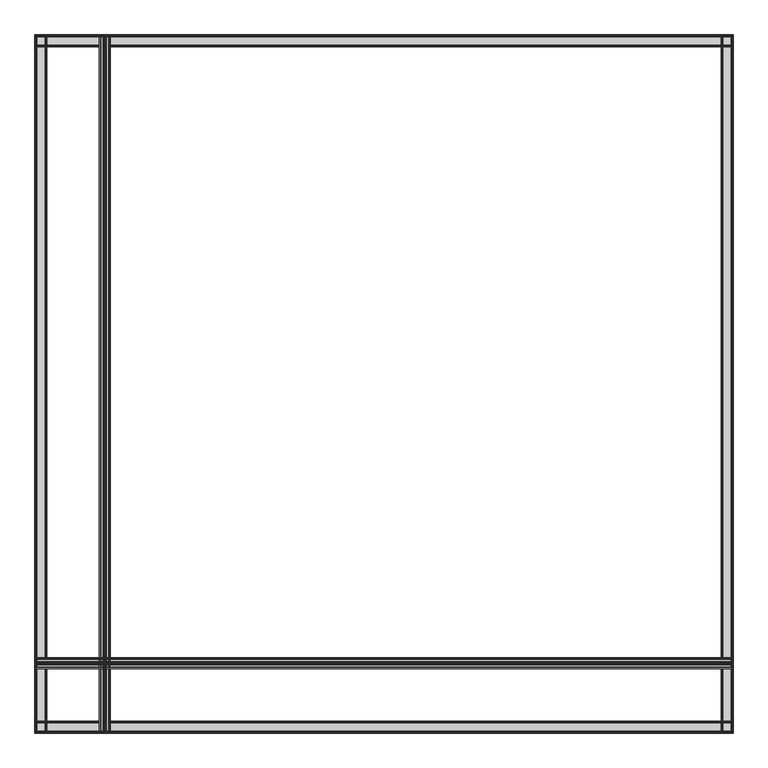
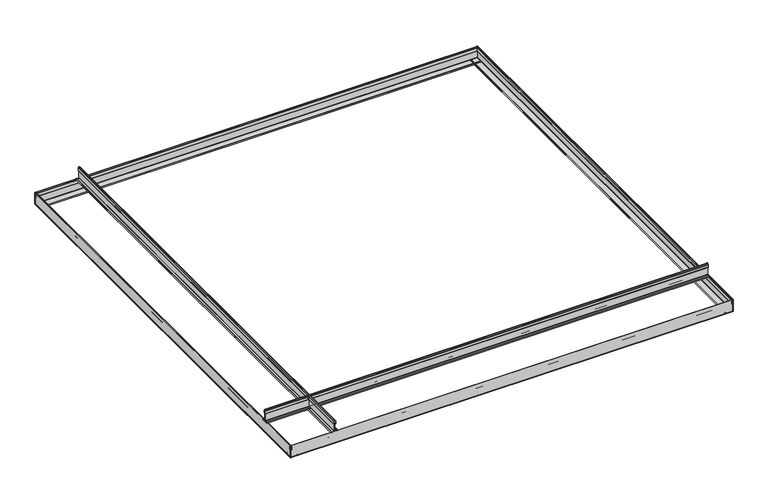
"""IFC4 building model written with IfcOpenShell, lengths in millimetres: proxy geometry, Maxxit_Concave-Ceiling_rev-01 : Maxxit_Concave-Ceiling_Solo."""

from ifc_helpers import new_model, si_unit, point, frame, frame_2d, origin, place, context, project, spatial, polyline, circle_curve, trimmed, segment, composite_curve, outline, extrude, source, transform, mapped, element, save


def generic_models_38ad2210(model_context):
    return source(origin(), model_context, "Body", "SweptSolid", [
        extrude(outline(composite_curve([segment(trimmed(circle_curve(frame_2d((152.7521622, 27.4883115)), 1.143), [point((152.7521622, 26.3453115))], [point((151.6091622, 27.4883115))], False, "CARTESIAN"), True, "CONTINUOUS"), segment(trimmed(circle_curve(frame_2d((150.4661622, 27.4883115)), 1.143), [point((151.6091622, 27.4883115))], [point((150.4661622, 26.3453115))], False, "CARTESIAN"), True, "CONTINUOUS"), segment(polyline([(150.4661622, 26.3453115), (141.2632271, 26.0290179), (141.2632271, 27.0486923), (149.8595431, 27.0486923)]), True, "CONTINUOUS"), segment(trimmed(circle_curve(frame_2d((149.8595431, 28.0053766)), 0.9566843), [point((149.8595431, 27.0486923))], [point((150.8162274, 28.0053766))], True, "CARTESIAN"), True, "CONTINUOUS"), segment(polyline([(150.8162274, 28.0053766), (150.8162274, 53.7436541)]), True, "CONTINUOUS"), segment(trimmed(circle_curve(frame_2d((150.0835556, 53.6130577)), 0.74422), [point((150.8162274, 53.7436541))], [point((150.1271464, 54.356))], True, "CARTESIAN"), True, "CONTINUOUS"), segment(trimmed(circle_curve(frame_2d((149.8680297, 58.371716)), 4.0240672), [point((150.1271464, 54.356))], [point((149.1805705, 54.4068054))], False, "CARTESIAN"), True, "CONTINUOUS"), segment(trimmed(circle_curve(frame_2d((149.538326, 55.7865501)), 1.4253717), [point((149.1805705, 54.4068054))], [point((148.1129543, 55.7865501))], False, "CARTESIAN"), True, "CONTINUOUS"), segment(polyline([(148.1129543, 55.7865501), (148.1129543, 64.7585942)]), True, "CONTINUOUS"), segment(trimmed(circle_curve(frame_2d((150.1630392, 64.8150812)), 2.0508629), [point((148.1129543, 64.7585942))], [point((148.7128601, 66.2652603))], False, "CARTESIAN"), True, "CONTINUOUS"), segment(polyline([(148.7128601, 66.2652603), (150.6184323, 68.1708325)]), True, "CONTINUOUS"), segment(trimmed(circle_curve(frame_2d((151.60625, 67.1830148)), 1.3969852), [point((150.6184323, 68.1708325))], [point((152.5940677, 68.1708325))], False, "CARTESIAN"), True, "CONTINUOUS"), segment(polyline([(152.5940677, 68.1708325), (154.4996399, 66.2652603)]), True, "CONTINUOUS"), segment(trimmed(circle_curve(frame_2d((153.0494608, 64.8150812)), 2.0508629), [point((154.4996399, 66.2652603))], [point((155.0995457, 64.7585942))], False, "CARTESIAN"), True, "CONTINUOUS"), segment(polyline([(155.0995457, 64.7585942), (155.0995457, 55.7865501)]), True, "CONTINUOUS"), segment(trimmed(circle_curve(frame_2d((153.674174, 55.7865501)), 1.4253717), [point((155.0995457, 55.7865501))], [point((154.0319295, 54.4068054))], False, "CARTESIAN"), True, "CONTINUOUS"), segment(trimmed(circle_curve(frame_2d((153.3444703, 58.371716)), 4.0240672), [point((154.0319295, 54.4068054))], [point((153.0853536, 54.356))], False, "CARTESIAN"), True, "CONTINUOUS"), segment(trimmed(circle_curve(frame_2d((153.1289444, 53.6130577)), 0.74422), [point((153.0853536, 54.356))], [point((152.402097, 53.7729211))], True, "CARTESIAN"), True, "CONTINUOUS"), segment(polyline([(152.402097, 53.7729211), (152.402097, 28.0053766)]), True, "CONTINUOUS"), segment(trimmed(circle_curve(frame_2d((153.3587813, 28.0053766)), 0.9566843), [point((152.402097, 28.0053766))], [point((153.3587813, 27.0486923))], True, "CARTESIAN"), True, "CONTINUOUS"), segment(polyline([(153.3587813, 27.0486923), (161.1221882, 27.0486923), (161.1221882, 26.0364605), (152.7521622, 26.3453115)]), True, "CONTINUOUS")], self_intersect=False), holes=[composite_curve([segment(trimmed(circle_curve(frame_2d((152.6758577, 54.058724)), 1.0922), [point((151.60625, 54.2797221))], [point((152.6758577, 55.150924))], False, "CARTESIAN"), True, "CONTINUOUS"), segment(polyline([(152.6758577, 55.150924), (153.6662785, 55.150924)]), True, "CONTINUOUS"), segment(trimmed(circle_curve(frame_2d((153.6662785, 55.7859245)), 0.6350005), [point((153.6662785, 55.150924))], [point((154.301279, 55.7859245))], True, "CARTESIAN"), True, "CONTINUOUS"), segment(polyline([(154.301279, 55.7859245), (154.301279, 64.7585942)]), True, "CONTINUOUS"), segment(trimmed(circle_curve(frame_2d((152.7984359, 64.7240599)), 1.5032399), [point((154.301279, 64.7585942))], [point((153.9383739, 65.7039943))], True, "CARTESIAN"), True, "CONTINUOUS"), segment(polyline([(153.9383739, 65.7039943), (152.0328017, 67.6095665)]), True, "CONTINUOUS"), segment(trimmed(circle_curve(frame_2d((151.60625, 67.1830148)), 0.6032352), [point((152.0328017, 67.6095665))], [point((151.1796983, 67.6095665))], True, "CARTESIAN"), True, "CONTINUOUS"), segment(polyline([(151.1796983, 67.6095665), (149.2741261, 65.7039943)]), True, "CONTINUOUS"), segment(trimmed(circle_curve(frame_2d((150.4140641, 64.7240599)), 1.5032399), [point((149.2741261, 65.7039943))], [point((148.911221, 64.7585942))], True, "CARTESIAN"), True, "CONTINUOUS"), segment(polyline([(148.911221, 64.7585942), (148.911221, 55.7859245)]), True, "CONTINUOUS"), segment(trimmed(circle_curve(frame_2d((149.5462215, 55.7859245)), 0.6350005), [point((148.911221, 55.7859245))], [point((149.5462215, 55.150924))], True, "CARTESIAN"), True, "CONTINUOUS"), segment(polyline([(149.5462215, 55.150924), (150.5366423, 55.150924)]), True, "CONTINUOUS"), segment(trimmed(circle_curve(frame_2d((150.5366423, 54.058724)), 1.0922), [point((150.5366423, 55.150924))], [point((151.60625, 54.2797221))], False, "CARTESIAN"), True, "CONTINUOUS")], self_intersect=False)]), frame((-0.79375, 0.0, 0.0), z_axis=(1.0, 0.0, 0.0), x_axis=(0.0, 1.0, 0.0)), (0.0, 0.0, 1.0), 1524.0),
        extrude(outline(composite_curve([segment(polyline([(162.0419885, 25.4), (141.1705115, 25.4)]), True, "CONTINUOUS"), segment(trimmed(circle_curve(frame_2d((141.1705115, 26.8823557)), 1.4823557), [point((141.1705115, 25.4))], [point((141.5415525, 28.3175237))], False, "CARTESIAN"), True, "CONTINUOUS"), segment(polyline([(141.5415525, 28.3175237), (143.0677295, 27.887022), (142.8522387, 27.123083), (141.3360297, 27.550773)]), True, "CONTINUOUS"), segment(trimmed(circle_curve(frame_2d((141.1705115, 26.8823557)), 0.6886057), [point((141.3360297, 27.550773))], [point((141.1705115, 26.19375))], True, "CARTESIAN"), True, "CONTINUOUS"), segment(polyline([(141.1705115, 26.19375), (162.0419885, 26.19375)]), True, "CONTINUOUS"), segment(trimmed(circle_curve(frame_2d((162.0419885, 26.8823557)), 0.6886057), [point((162.0419885, 26.19375))], [point((161.8764703, 27.550773))], True, "CARTESIAN"), True, "CONTINUOUS"), segment(polyline([(161.8764703, 27.550773), (160.3602613, 27.123083), (160.1447705, 27.887022), (161.6709475, 28.3175237)]), True, "CONTINUOUS"), segment(trimmed(circle_curve(frame_2d((162.0419885, 26.8823557)), 1.4823557), [point((161.6709475, 28.3175237))], [point((162.0419885, 25.4))], False, "CARTESIAN"), True, "CONTINUOUS")], self_intersect=False)), frame((-0.79375, 0.0, 0.0), z_axis=(1.0, 0.0, 0.0), x_axis=(0.0, 1.0, 0.0)), (0.0, 0.0, 1.0), 1524.0),
        extrude(outline(composite_curve([segment(polyline([(-14.9820313, 1523.1762526), (-14.1882813, 1523.1762526), (-14.1882813, 1498.4809145)]), True, "CONTINUOUS"), segment(trimmed(circle_curve(frame_2d((-13.4996755, 1498.4809145)), 0.6886057), [point((-14.1882813, 1498.4809145))], [point((-12.8312583, 1498.6464327))], True, "CARTESIAN"), True, "CONTINUOUS"), segment(polyline([(-12.8312583, 1498.6464327), (-13.2589482, 1500.1626417), (-12.4950092, 1500.3781325), (-12.0645075, 1498.8519555)]), True, "CONTINUOUS"), segment(trimmed(circle_curve(frame_2d((-13.4996755, 1498.4809145)), 1.4823557), [point((-12.0645075, 1498.8519555))], [point((-14.9820313, 1498.4809145))], False, "CARTESIAN"), True, "CONTINUOUS"), segment(polyline([(-14.9820313, 1498.4809145), (-14.9820313, 1523.1762526)]), True, "CONTINUOUS")], self_intersect=False)), frame((0.0, -0.79375, 0.0), z_axis=(0.0, 1.0, 0.0), x_axis=(0.0, 0.0, 1.0)), (0.0, 0.0, 1.0), 1524.0),
        extrude(outline(composite_curve([segment(trimmed(circle_curve(frame_2d((26.9918874, 1522.410403)), 1.3969852), [point((28.1400142, 1523.20625))], [point((27.9797051, 1521.4225853))], False, "CARTESIAN"), True, "CONTINUOUS"), segment(polyline([(27.9797051, 1521.4225853), (26.0741329, 1519.5170131)]), True, "CONTINUOUS"), segment(trimmed(circle_curve(frame_2d((24.6239538, 1520.9671922)), 2.0508629), [point((26.0741329, 1519.5170131))], [point((24.5674668, 1518.9171073))], False, "CARTESIAN"), True, "CONTINUOUS"), segment(polyline([(24.5674668, 1518.9171073), (14.4241684, 1518.9171073)]), True, "CONTINUOUS"), segment(trimmed(circle_curve(frame_2d((14.4241684, 1520.342479)), 1.4253717), [point((14.4241684, 1518.9171073))], [point((13.0444237, 1519.9847235))], False, "CARTESIAN"), True, "CONTINUOUS"), segment(trimmed(circle_curve(frame_2d((17.0093343, 1520.6721827)), 4.0240672), [point((13.0444237, 1519.9847235))], [point((12.9936183, 1520.9312994))], False, "CARTESIAN"), True, "CONTINUOUS"), segment(trimmed(circle_curve(frame_2d((12.250676, 1520.8877086)), 0.74422), [point((12.9936183, 1520.9312994))], [point((12.3812724, 1521.6203804))], True, "CARTESIAN"), True, "CONTINUOUS"), segment(polyline([(12.3812724, 1521.6203804), (-12.3766547, 1521.6203804)]), True, "CONTINUOUS"), segment(trimmed(circle_curve(frame_2d((-12.3766547, 1520.6636961)), 0.9566843), [point((-12.3766547, 1521.6203804))], [point((-13.333339, 1520.6636961))], True, "CARTESIAN"), True, "CONTINUOUS"), segment(polyline([(-13.333339, 1520.6636961), (-13.333339, 1498.5736301), (-14.3530133, 1498.5736301), (-14.0306827, 1521.9459287)]), True, "CONTINUOUS"), segment(trimmed(circle_curve(frame_2d((-12.8937197, 1522.06325)), 1.143), [point((-14.0306827, 1521.9459287))], [point((-12.8937197, 1523.20625))], False, "CARTESIAN"), True, "CONTINUOUS"), segment(polyline([(-12.8937197, 1523.20625), (28.1400142, 1523.20625)]), True, "CONTINUOUS")], self_intersect=False), holes=[composite_curve([segment(trimmed(circle_curve(frame_2d((14.4235428, 1521.7729828)), 0.6350005), [point((14.4235428, 1522.4079833))], [point((13.7885423, 1521.7729828))], True, "CARTESIAN"), True, "CONTINUOUS"), segment(polyline([(13.7885423, 1521.7729828), (13.7885423, 1520.3503744)]), True, "CONTINUOUS"), segment(trimmed(circle_curve(frame_2d((14.4235428, 1520.3503744)), 0.6350005), [point((13.7885423, 1520.3503744))], [point((14.4235428, 1519.715374))], True, "CARTESIAN"), True, "CONTINUOUS"), segment(polyline([(14.4235428, 1519.715374), (24.5674668, 1519.715374)]), True, "CONTINUOUS"), segment(trimmed(circle_curve(frame_2d((24.5329325, 1521.2182171)), 1.5032399), [point((24.5674668, 1519.715374))], [point((25.5128669, 1520.0782791))], True, "CARTESIAN"), True, "CONTINUOUS"), segment(polyline([(25.5128669, 1520.0782791), (27.8425711, 1522.4079833), (14.4235428, 1522.4079833)]), True, "CONTINUOUS")], self_intersect=False)]), frame((0.0, -0.79375, 0.0), z_axis=(0.0, 1.0, 0.0), x_axis=(0.0, 0.0, 1.0)), (0.0, 0.0, 1.0), 1524.0),
        extrude(outline(composite_curve([segment(polyline([(1523.1762526, -14.9820313), (1498.4809145, -14.9820313)]), True, "CONTINUOUS"), segment(trimmed(circle_curve(frame_2d((1498.4809145, -13.4996755)), 1.4823557), [point((1498.4809145, -14.9820313))], [point((1498.8519555, -12.0645075))], False, "CARTESIAN"), True, "CONTINUOUS"), segment(polyline([(1498.8519555, -12.0645075), (1500.3781325, -12.4950092), (1500.1626417, -13.2589482), (1498.6464327, -12.8312583)]), True, "CONTINUOUS"), segment(trimmed(circle_curve(frame_2d((1498.4809145, -13.4996755)), 0.6886057), [point((1498.6464327, -12.8312583))], [point((1498.4809145, -14.1882813))], True, "CARTESIAN"), True, "CONTINUOUS"), segment(polyline([(1498.4809145, -14.1882813), (1523.1762526, -14.1882813), (1523.1762526, -14.9820313)]), True, "CONTINUOUS")], self_intersect=False)), frame((-0.79375, 0.0, 0.0), z_axis=(1.0, 0.0, 0.0), x_axis=(0.0, 1.0, 0.0)), (0.0, 0.0, 1.0), 1524.0),
        extrude(outline(composite_curve([segment(polyline([(1523.20625, 28.1400142), (1523.20625, -12.8937197)]), True, "CONTINUOUS"), segment(trimmed(circle_curve(frame_2d((1522.06325, -12.8937197)), 1.143), [point((1523.20625, -12.8937197))], [point((1521.9459287, -14.0306827))], False, "CARTESIAN"), True, "CONTINUOUS"), segment(polyline([(1521.9459287, -14.0306827), (1498.5736301, -14.3530133), (1498.5736301, -13.333339), (1520.6636961, -13.333339)]), True, "CONTINUOUS"), segment(trimmed(circle_curve(frame_2d((1520.6636961, -12.3766547)), 0.9566843), [point((1520.6636961, -13.333339))], [point((1521.6203804, -12.3766547))], True, "CARTESIAN"), True, "CONTINUOUS"), segment(polyline([(1521.6203804, -12.3766547), (1521.6203804, 12.3812724)]), True, "CONTINUOUS"), segment(trimmed(circle_curve(frame_2d((1520.8877086, 12.250676)), 0.74422), [point((1521.6203804, 12.3812724))], [point((1520.9312994, 12.9936183))], True, "CARTESIAN"), True, "CONTINUOUS"), segment(trimmed(circle_curve(frame_2d((1520.6721827, 17.0093343)), 4.0240672), [point((1520.9312994, 12.9936183))], [point((1519.9847235, 13.0444237))], False, "CARTESIAN"), True, "CONTINUOUS"), segment(trimmed(circle_curve(frame_2d((1520.342479, 14.4241684)), 1.4253717), [point((1519.9847235, 13.0444237))], [point((1518.9171073, 14.4241684))], False, "CARTESIAN"), True, "CONTINUOUS"), segment(polyline([(1518.9171073, 14.4241684), (1518.9171073, 24.5674668)]), True, "CONTINUOUS"), segment(trimmed(circle_curve(frame_2d((1520.9671922, 24.6239538)), 2.0508629), [point((1518.9171073, 24.5674668))], [point((1519.5170131, 26.0741329))], False, "CARTESIAN"), True, "CONTINUOUS"), segment(polyline([(1519.5170131, 26.0741329), (1521.4225853, 27.9797051)]), True, "CONTINUOUS"), segment(trimmed(circle_curve(frame_2d((1522.410403, 26.9918874)), 1.3969852), [point((1521.4225853, 27.9797051))], [point((1523.20625, 28.1400142))], False, "CARTESIAN"), True, "CONTINUOUS")], self_intersect=False), holes=[composite_curve([segment(polyline([(1522.4079833, 14.4235428), (1522.4079833, 27.8425711), (1520.0782791, 25.5128669)]), True, "CONTINUOUS"), segment(trimmed(circle_curve(frame_2d((1521.2182171, 24.5329325)), 1.5032399), [point((1520.0782791, 25.5128669))], [point((1519.715374, 24.5674668))], True, "CARTESIAN"), True, "CONTINUOUS"), segment(polyline([(1519.715374, 24.5674668), (1519.715374, 14.4235428)]), True, "CONTINUOUS"), segment(trimmed(circle_curve(frame_2d((1520.3503744, 14.4235428)), 0.6350005), [point((1519.715374, 14.4235428))], [point((1520.3503744, 13.7885423))], True, "CARTESIAN"), True, "CONTINUOUS"), segment(polyline([(1520.3503744, 13.7885423), (1521.7729828, 13.7885423)]), True, "CONTINUOUS"), segment(trimmed(circle_curve(frame_2d((1521.7729828, 14.4235428)), 0.6350005), [point((1521.7729828, 13.7885423))], [point((1522.4079833, 14.4235428))], True, "CARTESIAN"), True, "CONTINUOUS")], self_intersect=False)]), frame((-0.79375, 0.0, 0.0), z_axis=(1.0, 0.0, 0.0), x_axis=(0.0, 1.0, 0.0)), (0.0, 0.0, 1.0), 1524.0),
        extrude(outline(composite_curve([segment(polyline([(-14.9820313, -0.7637526), (-14.9820313, 23.9315855)]), True, "CONTINUOUS"), segment(trimmed(circle_curve(frame_2d((-13.4996755, 23.9315855)), 1.4823557), [point((-14.9820313, 23.9315855))], [point((-12.0645075, 23.5605445))], False, "CARTESIAN"), True, "CONTINUOUS"), segment(polyline([(-12.0645075, 23.5605445), (-12.4950092, 22.0343675), (-13.2589482, 22.2498583), (-12.8312583, 23.7660673)]), True, "CONTINUOUS"), segment(trimmed(circle_curve(frame_2d((-13.4996755, 23.9315855)), 0.6886057), [point((-12.8312583, 23.7660673))], [point((-14.1882813, 23.9315855))], True, "CARTESIAN"), True, "CONTINUOUS"), segment(polyline([(-14.1882813, 23.9315855), (-14.1882813, -0.7637526), (-14.9820313, -0.7637526)]), True, "CONTINUOUS")], self_intersect=False)), frame((0.0, -0.79375, 0.0), z_axis=(0.0, 1.0, 0.0), x_axis=(0.0, 0.0, 1.0)), (0.0, 0.0, 1.0), 1524.0),
        extrude(outline(composite_curve([segment(polyline([(28.1400142, -0.79375), (-12.8937197, -0.79375)]), True, "CONTINUOUS"), segment(trimmed(circle_curve(frame_2d((-12.8937197, 0.34925)), 1.143), [point((-12.8937197, -0.79375))], [point((-14.0306827, 0.4665713))], False, "CARTESIAN"), True, "CONTINUOUS"), segment(polyline([(-14.0306827, 0.4665713), (-14.3530133, 23.8388699), (-13.333339, 23.8388699), (-13.333339, 1.7488039)]), True, "CONTINUOUS"), segment(trimmed(circle_curve(frame_2d((-12.3766547, 1.7488039)), 0.9566843), [point((-13.333339, 1.7488039))], [point((-12.3766547, 0.7921196))], True, "CARTESIAN"), True, "CONTINUOUS"), segment(polyline([(-12.3766547, 0.7921196), (12.3812724, 0.7921196)]), True, "CONTINUOUS"), segment(trimmed(circle_curve(frame_2d((12.250676, 1.5247914)), 0.74422), [point((12.3812724, 0.7921196))], [point((12.9936183, 1.4812006))], True, "CARTESIAN"), True, "CONTINUOUS"), segment(trimmed(circle_curve(frame_2d((17.0093343, 1.7403173)), 4.0240672), [point((12.9936183, 1.4812006))], [point((13.0444237, 2.4277765))], False, "CARTESIAN"), True, "CONTINUOUS"), segment(trimmed(circle_curve(frame_2d((14.4241684, 2.070021)), 1.4253717), [point((13.0444237, 2.4277765))], [point((14.4241684, 3.4953927))], False, "CARTESIAN"), True, "CONTINUOUS"), segment(polyline([(14.4241684, 3.4953927), (24.5674668, 3.4953927)]), True, "CONTINUOUS"), segment(trimmed(circle_curve(frame_2d((24.6239538, 1.4453078)), 2.0508629), [point((24.5674668, 3.4953927))], [point((26.0741329, 2.8954869))], False, "CARTESIAN"), True, "CONTINUOUS"), segment(polyline([(26.0741329, 2.8954869), (27.9797051, 0.9899147)]), True, "CONTINUOUS"), segment(trimmed(circle_curve(frame_2d((26.9918874, 0.002097)), 1.3969852), [point((27.9797051, 0.9899147))], [point((28.1400142, -0.79375))], False, "CARTESIAN"), True, "CONTINUOUS")], self_intersect=False), holes=[composite_curve([segment(polyline([(14.4235428, 0.0045167), (27.8425711, 0.0045167), (25.5128669, 2.3342209)]), True, "CONTINUOUS"), segment(trimmed(circle_curve(frame_2d((24.5329325, 1.1942829)), 1.5032399), [point((25.5128669, 2.3342209))], [point((24.5674668, 2.697126))], True, "CARTESIAN"), True, "CONTINUOUS"), segment(polyline([(24.5674668, 2.697126), (14.4235428, 2.697126)]), True, "CONTINUOUS"), segment(trimmed(circle_curve(frame_2d((14.4235428, 2.0621256)), 0.6350005), [point((14.4235428, 2.697126))], [point((13.7885423, 2.0621256))], True, "CARTESIAN"), True, "CONTINUOUS"), segment(polyline([(13.7885423, 2.0621256), (13.7885423, 0.6395172)]), True, "CONTINUOUS"), segment(trimmed(circle_curve(frame_2d((14.4235428, 0.6395172)), 0.6350005), [point((13.7885423, 0.6395172))], [point((14.4235428, 0.0045167))], True, "CARTESIAN"), True, "CONTINUOUS")], self_intersect=False)]), frame((0.0, -0.79375, 0.0), z_axis=(0.0, 1.0, 0.0), x_axis=(0.0, 0.0, 1.0)), (0.0, 0.0, 1.0), 1524.0),
        extrude(outline(composite_curve([segment(polyline([(-0.7637526, -14.9820313), (-0.7637526, -14.1882813), (23.9315855, -14.1882813)]), True, "CONTINUOUS"), segment(trimmed(circle_curve(frame_2d((23.9315855, -13.4996755)), 0.6886057), [point((23.9315855, -14.1882813))], [point((23.7660673, -12.8312583))], True, "CARTESIAN"), True, "CONTINUOUS"), segment(polyline([(23.7660673, -12.8312583), (22.2498583, -13.2589482), (22.0343675, -12.4950092), (23.5605445, -12.0645075)]), True, "CONTINUOUS"), segment(trimmed(circle_curve(frame_2d((23.9315855, -13.4996755)), 1.4823557), [point((23.5605445, -12.0645075))], [point((23.9315855, -14.9820313))], False, "CARTESIAN"), True, "CONTINUOUS"), segment(polyline([(23.9315855, -14.9820313), (-0.7637526, -14.9820313)]), True, "CONTINUOUS")], self_intersect=False)), frame((-0.79375, 0.0, 0.0), z_axis=(1.0, 0.0, 0.0), x_axis=(0.0, 1.0, 0.0)), (0.0, 0.0, 1.0), 1524.0),
        extrude(outline(composite_curve([segment(trimmed(circle_curve(frame_2d((0.002097, 26.9918874)), 1.3969852), [point((-0.79375, 28.1400142))], [point((0.9899147, 27.9797051))], False, "CARTESIAN"), True, "CONTINUOUS"), segment(polyline([(0.9899147, 27.9797051), (2.8954869, 26.0741329)]), True, "CONTINUOUS"), segment(trimmed(circle_curve(frame_2d((1.4453078, 24.6239538)), 2.0508629), [point((2.8954869, 26.0741329))], [point((3.4953927, 24.5674668))], False, "CARTESIAN"), True, "CONTINUOUS"), segment(polyline([(3.4953927, 24.5674668), (3.4953927, 14.4241684)]), True, "CONTINUOUS"), segment(trimmed(circle_curve(frame_2d((2.070021, 14.4241684)), 1.4253717), [point((3.4953927, 14.4241684))], [point((2.4277765, 13.0444237))], False, "CARTESIAN"), True, "CONTINUOUS"), segment(trimmed(circle_curve(frame_2d((1.7403173, 17.0093343)), 4.0240672), [point((2.4277765, 13.0444237))], [point((1.4812006, 12.9936183))], False, "CARTESIAN"), True, "CONTINUOUS"), segment(trimmed(circle_curve(frame_2d((1.5247914, 12.250676)), 0.74422), [point((1.4812006, 12.9936183))], [point((0.7921196, 12.3812724))], True, "CARTESIAN"), True, "CONTINUOUS"), segment(polyline([(0.7921196, 12.3812724), (0.7921196, -12.3766547)]), True, "CONTINUOUS"), segment(trimmed(circle_curve(frame_2d((1.7488039, -12.3766547)), 0.9566843), [point((0.7921196, -12.3766547))], [point((1.7488039, -13.333339))], True, "CARTESIAN"), True, "CONTINUOUS"), segment(polyline([(1.7488039, -13.333339), (23.8388699, -13.333339), (23.8388699, -14.3530133), (0.4665713, -14.0306827)]), True, "CONTINUOUS"), segment(trimmed(circle_curve(frame_2d((0.34925, -12.8937197)), 1.143), [point((0.4665713, -14.0306827))], [point((-0.79375, -12.8937197))], False, "CARTESIAN"), True, "CONTINUOUS"), segment(polyline([(-0.79375, -12.8937197), (-0.79375, 28.1400142)]), True, "CONTINUOUS")], self_intersect=False), holes=[composite_curve([segment(trimmed(circle_curve(frame_2d((0.6395172, 14.4235428)), 0.6350005), [point((0.0045167, 14.4235428))], [point((0.6395172, 13.7885423))], True, "CARTESIAN"), True, "CONTINUOUS"), segment(polyline([(0.6395172, 13.7885423), (2.0621256, 13.7885423)]), True, "CONTINUOUS"), segment(trimmed(circle_curve(frame_2d((2.0621256, 14.4235428)), 0.6350005), [point((2.0621256, 13.7885423))], [point((2.697126, 14.4235428))], True, "CARTESIAN"), True, "CONTINUOUS"), segment(polyline([(2.697126, 14.4235428), (2.697126, 24.5674668)]), True, "CONTINUOUS"), segment(trimmed(circle_curve(frame_2d((1.1942829, 24.5329325)), 1.5032399), [point((2.697126, 24.5674668))], [point((2.3342209, 25.5128669))], True, "CARTESIAN"), True, "CONTINUOUS"), segment(polyline([(2.3342209, 25.5128669), (0.0045167, 27.8425711), (0.0045167, 14.4235428)]), True, "CONTINUOUS")], self_intersect=False)]), frame((-0.79375, 0.0, 0.0), z_axis=(1.0, 0.0, 0.0), x_axis=(0.0, 1.0, 0.0)), (0.0, 0.0, 1.0), 1524.0),
        extrude(outline(composite_curve([segment(polyline([(26.3453115, 152.7521622), (26.0364605, 161.1221882), (27.0486923, 161.1221882), (27.0486923, 153.3587813)]), True, "CONTINUOUS"), segment(trimmed(circle_curve(frame_2d((28.0053766, 153.3587813)), 0.9566843), [point((27.0486923, 153.3587813))], [point((28.0053766, 152.402097))], True, "CARTESIAN"), True, "CONTINUOUS"), segment(polyline([(28.0053766, 152.402097), (53.7729211, 152.402097)]), True, "CONTINUOUS"), segment(trimmed(circle_curve(frame_2d((53.6130577, 153.1289444)), 0.74422), [point((53.7729211, 152.402097))], [point((54.356, 153.0853536))], True, "CARTESIAN"), True, "CONTINUOUS"), segment(trimmed(circle_curve(frame_2d((58.371716, 153.3444703)), 4.0240672), [point((54.356, 153.0853536))], [point((54.4068054, 154.0319295))], False, "CARTESIAN"), True, "CONTINUOUS"), segment(trimmed(circle_curve(frame_2d((55.7865501, 153.674174)), 1.4253717), [point((54.4068054, 154.0319295))], [point((55.7865501, 155.0995457))], False, "CARTESIAN"), True, "CONTINUOUS"), segment(polyline([(55.7865501, 155.0995457), (64.7585942, 155.0995457)]), True, "CONTINUOUS"), segment(trimmed(circle_curve(frame_2d((64.8150812, 153.0494608)), 2.0508629), [point((64.7585942, 155.0995457))], [point((66.2652603, 154.4996399))], False, "CARTESIAN"), True, "CONTINUOUS"), segment(polyline([(66.2652603, 154.4996399), (68.1708325, 152.5940677)]), True, "CONTINUOUS"), segment(trimmed(circle_curve(frame_2d((67.1830148, 151.60625)), 1.3969852), [point((68.1708325, 152.5940677))], [point((68.1708325, 150.6184323))], False, "CARTESIAN"), True, "CONTINUOUS"), segment(polyline([(68.1708325, 150.6184323), (66.2652603, 148.7128601)]), True, "CONTINUOUS"), segment(trimmed(circle_curve(frame_2d((64.8150812, 150.1630392)), 2.0508629), [point((66.2652603, 148.7128601))], [point((64.7585942, 148.1129543))], False, "CARTESIAN"), True, "CONTINUOUS"), segment(polyline([(64.7585942, 148.1129543), (55.7865501, 148.1129543)]), True, "CONTINUOUS"), segment(trimmed(circle_curve(frame_2d((55.7865501, 149.538326)), 1.4253717), [point((55.7865501, 148.1129543))], [point((54.4068054, 149.1805705))], False, "CARTESIAN"), True, "CONTINUOUS"), segment(trimmed(circle_curve(frame_2d((58.371716, 149.8680297)), 4.0240672), [point((54.4068054, 149.1805705))], [point((54.356, 150.1271464))], False, "CARTESIAN"), True, "CONTINUOUS"), segment(trimmed(circle_curve(frame_2d((53.6130577, 150.0835556)), 0.74422), [point((54.356, 150.1271464))], [point((53.7436541, 150.8162274))], True, "CARTESIAN"), True, "CONTINUOUS"), segment(polyline([(53.7436541, 150.8162274), (28.0053766, 150.8162274)]), True, "CONTINUOUS"), segment(trimmed(circle_curve(frame_2d((28.0053766, 149.8595431)), 0.9566843), [point((28.0053766, 150.8162274))], [point((27.0486923, 149.8595431))], True, "CARTESIAN"), True, "CONTINUOUS"), segment(polyline([(27.0486923, 149.8595431), (27.0486923, 141.2632271), (26.0290179, 141.2632271), (26.3453115, 150.4661622)]), True, "CONTINUOUS"), segment(trimmed(circle_curve(frame_2d((27.4883115, 150.4661622)), 1.143), [point((26.3453115, 150.4661622))], [point((27.4883115, 151.6091622))], False, "CARTESIAN"), True, "CONTINUOUS"), segment(trimmed(circle_curve(frame_2d((27.4883115, 152.7521622)), 1.143), [point((27.4883115, 151.6091622))], [point((26.3453115, 152.7521622))], False, "CARTESIAN"), True, "CONTINUOUS")], self_intersect=False), holes=[composite_curve([segment(trimmed(circle_curve(frame_2d((54.058724, 150.5366423)), 1.0922), [point((54.2797221, 151.60625))], [point((55.150924, 150.5366423))], False, "CARTESIAN"), True, "CONTINUOUS"), segment(polyline([(55.150924, 150.5366423), (55.150924, 149.5462215)]), True, "CONTINUOUS"), segment(trimmed(circle_curve(frame_2d((55.7859245, 149.5462215)), 0.6350005), [point((55.150924, 149.5462215))], [point((55.7859245, 148.911221))], True, "CARTESIAN"), True, "CONTINUOUS"), segment(polyline([(55.7859245, 148.911221), (64.7585942, 148.911221)]), True, "CONTINUOUS"), segment(trimmed(circle_curve(frame_2d((64.7240599, 150.4140641)), 1.5032399), [point((64.7585942, 148.911221))], [point((65.7039943, 149.2741261))], True, "CARTESIAN"), True, "CONTINUOUS"), segment(polyline([(65.7039943, 149.2741261), (67.6095665, 151.1796983)]), True, "CONTINUOUS"), segment(trimmed(circle_curve(frame_2d((67.1830148, 151.60625)), 0.6032352), [point((67.6095665, 151.1796983))], [point((67.6095665, 152.0328017))], True, "CARTESIAN"), True, "CONTINUOUS"), segment(polyline([(67.6095665, 152.0328017), (65.7039943, 153.9383739)]), True, "CONTINUOUS"), segment(trimmed(circle_curve(frame_2d((64.7240599, 152.7984359)), 1.5032399), [point((65.7039943, 153.9383739))], [point((64.7585942, 154.301279))], True, "CARTESIAN"), True, "CONTINUOUS"), segment(polyline([(64.7585942, 154.301279), (55.7859245, 154.301279)]), True, "CONTINUOUS"), segment(trimmed(circle_curve(frame_2d((55.7859245, 153.6662785)), 0.6350005), [point((55.7859245, 154.301279))], [point((55.150924, 153.6662785))], True, "CARTESIAN"), True, "CONTINUOUS"), segment(polyline([(55.150924, 153.6662785), (55.150924, 152.6758577)]), True, "CONTINUOUS"), segment(trimmed(circle_curve(frame_2d((54.058724, 152.6758577)), 1.0922), [point((55.150924, 152.6758577))], [point((54.2797221, 151.60625))], False, "CARTESIAN"), True, "CONTINUOUS")], self_intersect=False)]), frame((0.0, -0.79375, 0.0), z_axis=(0.0, 1.0, 0.0), x_axis=(0.0, 0.0, 1.0)), (0.0, 0.0, 1.0), 1524.0),
        extrude(outline(composite_curve([segment(trimmed(circle_curve(frame_2d((26.8823557, 162.0419885)), 1.4823557), [point((25.4, 162.0419885))], [point((28.3175237, 161.6709475))], False, "CARTESIAN"), True, "CONTINUOUS"), segment(polyline([(28.3175237, 161.6709475), (27.887022, 160.1447705), (27.123083, 160.3602613), (27.550773, 161.8764703)]), True, "CONTINUOUS"), segment(trimmed(circle_curve(frame_2d((26.8823557, 162.0419885)), 0.6886057), [point((27.550773, 161.8764703))], [point((26.19375, 162.0419885))], True, "CARTESIAN"), True, "CONTINUOUS"), segment(polyline([(26.19375, 162.0419885), (26.19375, 141.1705115)]), True, "CONTINUOUS"), segment(trimmed(circle_curve(frame_2d((26.8823557, 141.1705115)), 0.6886057), [point((26.19375, 141.1705115))], [point((27.550773, 141.3360297))], True, "CARTESIAN"), True, "CONTINUOUS"), segment(polyline([(27.550773, 141.3360297), (27.123083, 142.8522387), (27.887022, 143.0677295), (28.3175237, 141.5415525)]), True, "CONTINUOUS"), segment(trimmed(circle_curve(frame_2d((26.8823557, 141.1705115)), 1.4823557), [point((28.3175237, 141.5415525))], [point((25.4, 141.1705115))], False, "CARTESIAN"), True, "CONTINUOUS"), segment(polyline([(25.4, 141.1705115), (25.4, 162.0419885)]), True, "CONTINUOUS")], self_intersect=False)), frame((0.0, -0.79375, 0.0), z_axis=(0.0, 1.0, 0.0), x_axis=(0.0, 0.0, 1.0)), (0.0, 0.0, 1.0), 1524.0),
    ])


if __name__ == "__main__":
    model = new_model("IFC4")
    model_context = context("Model", 3, world=origin())
    ifc_project = project(units=[si_unit("LENGTHUNIT", "METRE", prefix="MILLI")], contexts=[model_context])
    site = spatial("IfcSite", under=ifc_project)
    building = spatial("IfcBuilding", under=site)
    placement = place(None, origin())
    generic_models_shape = generic_models_38ad2210(model_context)
    element("IfcBuildingElementProxy", 1, Name="Maxxit_Concave-Ceiling_rev-01 : Maxxit_Concave-Ceiling_Solo", ObjectType="Maxxit_Concave-Ceiling_rev-01 : Maxxit_Concave-Ceiling_Solo", at=placement, inside=building, context=model_context, shape_type="MappedRepresentation", body=[
        mapped(generic_models_shape, transform((0.0, 0.0, 0.0), x_axis=(1.0, 0.0, 0.0), y_axis=(0.0, 1.0, 0.0), z_axis=(0.0, 0.0, 1.0))),
    ])
    save(model, "model.ifc")
